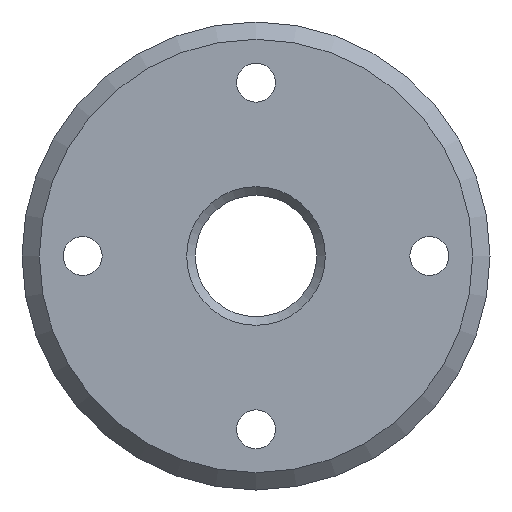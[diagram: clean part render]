
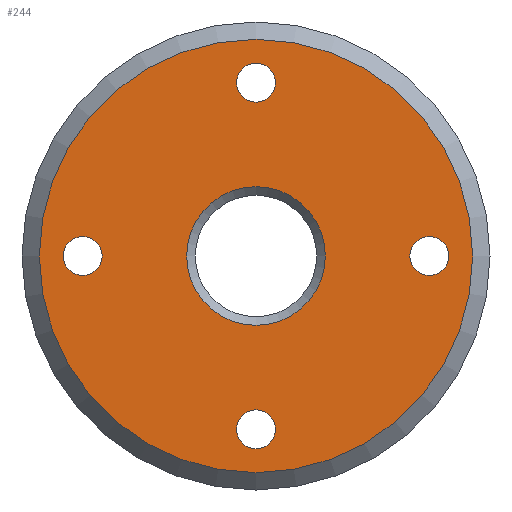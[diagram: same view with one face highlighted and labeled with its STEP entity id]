
A CAD part, left-side view. The second image highlights one B-rep face of the part: STEP entity #244.
In plain terms, the highlighted planar face has unit normal (-1, 0, 0).
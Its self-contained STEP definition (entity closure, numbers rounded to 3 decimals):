
#15=FACE_BOUND('',#53,.T.);
#16=FACE_BOUND('',#54,.T.);
#17=FACE_BOUND('',#55,.T.);
#18=FACE_BOUND('',#56,.T.);
#19=FACE_BOUND('',#57,.T.);
#26=PLANE('',#292);
#38=FACE_OUTER_BOUND('',#52,.T.);
#52=EDGE_LOOP('',(#189));
#53=EDGE_LOOP('',(#190));
#54=EDGE_LOOP('',(#191));
#55=EDGE_LOOP('',(#192));
#56=EDGE_LOOP('',(#193));
#57=EDGE_LOOP('',(#194));
#94=CIRCLE('',#277,2.25);
#96=CIRCLE('',#280,2.25);
#98=CIRCLE('',#283,2.25);
#100=CIRCLE('',#286,2.25);
#104=CIRCLE('',#291,25.);
#105=CIRCLE('',#293,8.);
#115=VERTEX_POINT('',#396);
#117=VERTEX_POINT('',#402);
#119=VERTEX_POINT('',#408);
#121=VERTEX_POINT('',#414);
#125=VERTEX_POINT('',#424);
#126=VERTEX_POINT('',#428);
#136=EDGE_CURVE('',#115,#115,#94,.T.);
#139=EDGE_CURVE('',#117,#117,#96,.T.);
#142=EDGE_CURVE('',#119,#119,#98,.T.);
#145=EDGE_CURVE('',#121,#121,#100,.T.);
#151=EDGE_CURVE('',#125,#125,#104,.T.);
#152=EDGE_CURVE('',#126,#126,#105,.T.);
#189=ORIENTED_EDGE('',*,*,#151,.F.);
#190=ORIENTED_EDGE('',*,*,#136,.T.);
#191=ORIENTED_EDGE('',*,*,#139,.T.);
#192=ORIENTED_EDGE('',*,*,#142,.T.);
#193=ORIENTED_EDGE('',*,*,#145,.T.);
#194=ORIENTED_EDGE('',*,*,#152,.F.);
#244=ADVANCED_FACE('',(#38,#15,#16,#17,#18,#19),#26,.T.);
#277=AXIS2_PLACEMENT_3D('',#397,#315,#316);
#280=AXIS2_PLACEMENT_3D('',#403,#322,#323);
#283=AXIS2_PLACEMENT_3D('',#409,#329,#330);
#286=AXIS2_PLACEMENT_3D('',#415,#336,#337);
#291=AXIS2_PLACEMENT_3D('',#426,#348,#349);
#292=AXIS2_PLACEMENT_3D('',#427,#350,#351);
#293=AXIS2_PLACEMENT_3D('',#429,#352,#353);
#315=DIRECTION('center_axis',(1.,0.,0.));
#316=DIRECTION('ref_axis',(0.,0.,1.));
#322=DIRECTION('center_axis',(1.,0.,0.));
#323=DIRECTION('ref_axis',(0.,0.,1.));
#329=DIRECTION('center_axis',(1.,0.,0.));
#330=DIRECTION('ref_axis',(0.,0.,1.));
#336=DIRECTION('center_axis',(1.,0.,0.));
#337=DIRECTION('ref_axis',(0.,0.,1.));
#348=DIRECTION('center_axis',(1.,0.,0.));
#349=DIRECTION('ref_axis',(0.,-1.,0.));
#350=DIRECTION('center_axis',(-1.,0.,0.));
#351=DIRECTION('ref_axis',(0.,0.,1.));
#352=DIRECTION('center_axis',(-1.,0.,0.));
#353=DIRECTION('ref_axis',(0.,1.,0.));
#396=CARTESIAN_POINT('',(-10.,0.,17.75));
#397=CARTESIAN_POINT('Origin',(-10.,0.,20.));
#402=CARTESIAN_POINT('',(-10.,20.,-2.25));
#403=CARTESIAN_POINT('Origin',(-10.,20.,0.));
#408=CARTESIAN_POINT('',(-10.,0.,-22.25));
#409=CARTESIAN_POINT('Origin',(-10.,0.,-20.));
#414=CARTESIAN_POINT('',(-10.,-20.,-2.25));
#415=CARTESIAN_POINT('Origin',(-10.,-20.,0.));
#424=CARTESIAN_POINT('',(-10.,25.,0.));
#426=CARTESIAN_POINT('Origin',(-10.,0.,0.));
#427=CARTESIAN_POINT('Origin',(-10.,13.5,0.));
#428=CARTESIAN_POINT('',(-10.,-8.,0.));
#429=CARTESIAN_POINT('Origin',(-10.,0.,0.));
